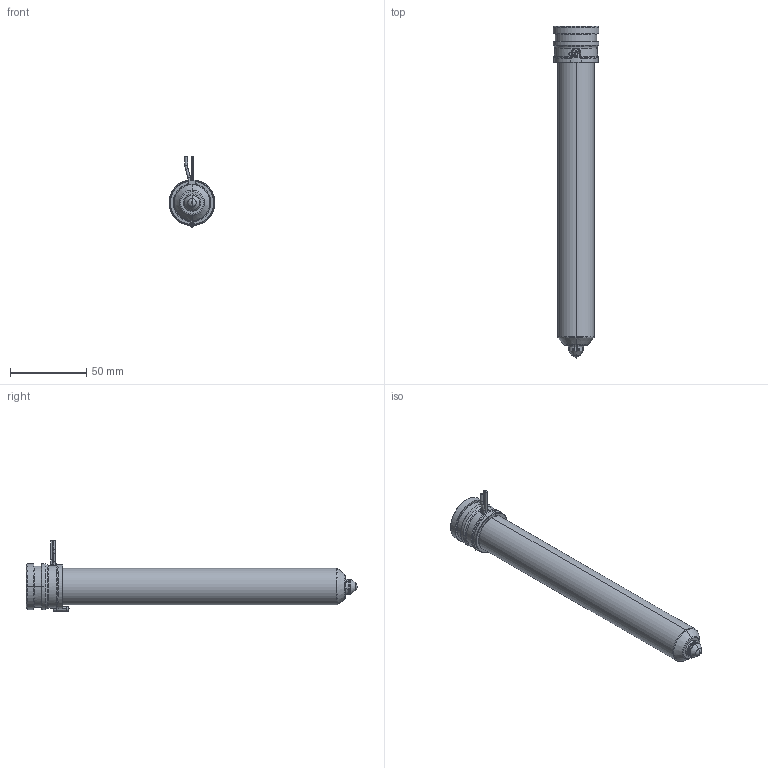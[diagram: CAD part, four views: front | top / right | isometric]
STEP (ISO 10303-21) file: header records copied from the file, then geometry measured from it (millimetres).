
FILE_DESCRIPTION((''),'2;1');
FILE_NAME('MPN-10-29-VX10-196-A','2026-02-05T12:41:48',('UPTIO'),('Thermoplay S.p.A.'),'CREO PARAMETRIC BY PTC INC, 2023494','CREO PARAMETRIC BY PTC INC, 2023494','');
FILE_SCHEMA(('CONFIG_CONTROL_DESIGN','SHAPE_APPEARANCE_LAYERS_GROUPS'));
Length unit declared in the file: millimetre
Products named in the file (1): MPN-10-29-VX10-196-A
Bounding box: 30 x 217.5 x 46 mm (x, y, z)
Volume: 66796.9 mm3; surface area: 67984.1 mm2
Topology: 2 solids, 3 shells, 557 faces, 1459 edges, 901 vertices
Faces by surface type: cylinder 182, plane 144, bspline 76, torus 72, cone 70, sphere 9, extrusion 4
Entity records: 30725 total; most frequent: CARTESIAN_POINT 14218, ORIENTED_EDGE 2906, DIRECTION 2711, EDGE_CURVE 1453, AXIS2_PLACEMENT_3D 1078, VERTEX_POINT 901, CIRCLE 600, EDGE_LOOP 586
